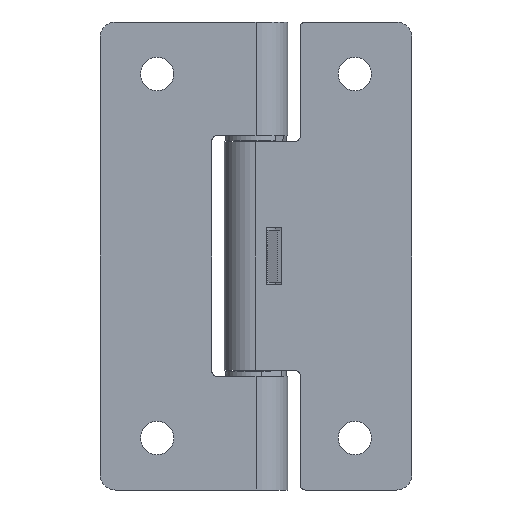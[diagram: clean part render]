
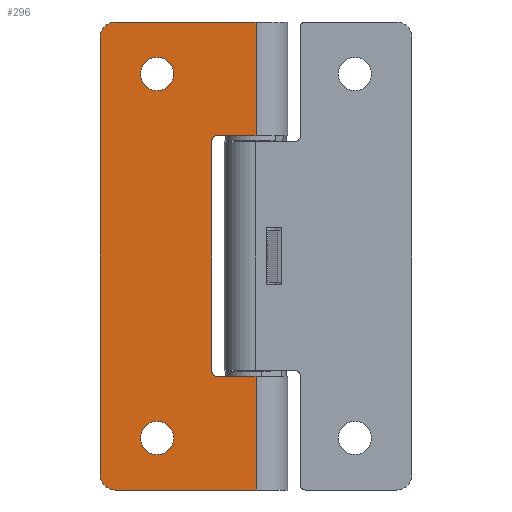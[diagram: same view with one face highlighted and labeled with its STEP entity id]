
A CAD part, front view. The second image highlights one B-rep face of the part: STEP entity #296.
In plain terms, the highlighted planar face has unit normal (0, -1, 0).
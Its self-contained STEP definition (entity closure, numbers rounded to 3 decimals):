
#16 = CIRCLE ( 'NONE', #3369, 3.2 ) ;
#29 = DIRECTION ( 'NONE',  ( 0., 0., 1. ) ) ;
#125 = CARTESIAN_POINT ( 'NONE',  ( 0., -6.1, 45. ) ) ;
#130 = CARTESIAN_POINT ( 'NONE',  ( 8.5, -6.1, 23.15 ) ) ;
#142 = ORIENTED_EDGE ( 'NONE', *, *, #1237, .T. ) ;
#154 = LINE ( 'NONE', #130, #2743 ) ;
#159 = VERTEX_POINT ( 'NONE', #1910 ) ;
#166 = DIRECTION ( 'NONE',  ( 0., 0., 1. ) ) ;
#182 = CIRCLE ( 'NONE', #2734, 3.2 ) ;
#184 = CIRCLE ( 'NONE', #3012, 1. ) ;
#185 = EDGE_CURVE ( 'NONE', #321, #2783, #2829, .T. ) ;
#187 = VECTOR ( 'NONE', #902, 1000. ) ;
#204 = VERTEX_POINT ( 'NONE', #1789 ) ;
#223 = DIRECTION ( 'NONE',  ( 0., 1., 0. ) ) ;
#242 = DIRECTION ( 'NONE',  ( 0., 0., -1. ) ) ;
#261 = EDGE_CURVE ( 'NONE', #2697, #1130, #286, .T. ) ;
#286 = CIRCLE ( 'NONE', #1131, 1. ) ;
#296 = ADVANCED_FACE ( 'NONE', ( #1289, #2405, #496 ), #1302, .F. ) ;
#321 = VERTEX_POINT ( 'NONE', #1392 ) ;
#336 = LINE ( 'NONE', #560, #926 ) ;
#338 = CARTESIAN_POINT ( 'NONE',  ( 7.5, -6.1, 23.15 ) ) ;
#358 = CARTESIAN_POINT ( 'NONE',  ( 19., -6.1, 35. ) ) ;
#421 = AXIS2_PLACEMENT_3D ( 'NONE', #511, #3212, #1292 ) ;
#452 = ORIENTED_EDGE ( 'NONE', *, *, #3366, .T. ) ;
#496 = FACE_OUTER_BOUND ( 'NONE', #1307, .T. ) ;
#508 = EDGE_CURVE ( 'NONE', #1041, #204, #182, .T. ) ;
#511 = CARTESIAN_POINT ( 'NONE',  ( 27., -6.1, 42. ) ) ;
#560 = CARTESIAN_POINT ( 'NONE',  ( 8.5, -6.1, -23.15 ) ) ;
#566 = DIRECTION ( 'NONE',  ( 0., 0., 1. ) ) ;
#594 = CARTESIAN_POINT ( 'NONE',  ( 7.5, -6.1, 22.15 ) ) ;
#642 = CARTESIAN_POINT ( 'NONE',  ( 19., -6.1, 38.2 ) ) ;
#668 = EDGE_CURVE ( 'NONE', #2143, #3510, #2676, .T. ) ;
#670 = CARTESIAN_POINT ( 'NONE',  ( 30., -6.1, -42. ) ) ;
#688 = VERTEX_POINT ( 'NONE', #338 ) ;
#717 = DIRECTION ( 'NONE',  ( 1., 0., 0. ) ) ;
#793 = LINE ( 'NONE', #2424, #2393 ) ;
#810 = VECTOR ( 'NONE', #2788, 1000. ) ;
#866 = CIRCLE ( 'NONE', #421, 3. ) ;
#902 = DIRECTION ( 'NONE',  ( 0., 0., -1. ) ) ;
#903 = CARTESIAN_POINT ( 'NONE',  ( 19., -6.1, 31.8 ) ) ;
#926 = VECTOR ( 'NONE', #1673, 1000. ) ;
#961 = EDGE_LOOP ( 'NONE', ( #2573, #1468 ) ) ;
#993 = EDGE_CURVE ( 'NONE', #688, #2420, #184, .T. ) ;
#1032 = CARTESIAN_POINT ( 'NONE',  ( 0., -6.1, 45. ) ) ;
#1041 = VERTEX_POINT ( 'NONE', #1456 ) ;
#1052 = ORIENTED_EDGE ( 'NONE', *, *, #2023, .T. ) ;
#1060 = LINE ( 'NONE', #3295, #1558 ) ;
#1062 = DIRECTION ( 'NONE',  ( 0., 0., 1. ) ) ;
#1094 = EDGE_CURVE ( 'NONE', #2783, #3069, #2572, .T. ) ;
#1116 = DIRECTION ( 'NONE',  ( 0., 0., 1. ) ) ;
#1130 = VERTEX_POINT ( 'NONE', #3078 ) ;
#1131 = AXIS2_PLACEMENT_3D ( 'NONE', #2544, #3411, #1743 ) ;
#1185 = CARTESIAN_POINT ( 'NONE',  ( 0., -6.1, -45. ) ) ;
#1188 = DIRECTION ( 'NONE',  ( 0., 1., 0. ) ) ;
#1198 = VECTOR ( 'NONE', #717, 1000. ) ;
#1237 = EDGE_CURVE ( 'NONE', #204, #1041, #16, .T. ) ;
#1289 = FACE_BOUND ( 'NONE', #2838, .T. ) ;
#1292 = DIRECTION ( 'NONE',  ( 0., 0., 1. ) ) ;
#1302 = PLANE ( 'NONE',  #2434 ) ;
#1307 = EDGE_LOOP ( 'NONE', ( #1052, #3363, #1467, #1898, #3393, #452, #2688, #2708, #3101, #2104, #2506, #2824 ) ) ;
#1312 = EDGE_CURVE ( 'NONE', #159, #321, #2228, .T. ) ;
#1317 = VECTOR ( 'NONE', #2952, 1000. ) ;
#1359 = CARTESIAN_POINT ( 'NONE',  ( 8.5, -6.1, 22.15 ) ) ;
#1362 = DIRECTION ( 'NONE',  ( 0., 1., 0. ) ) ;
#1392 = CARTESIAN_POINT ( 'NONE',  ( 0., -6.1, -45. ) ) ;
#1437 = DIRECTION ( 'NONE',  ( 0., 0., 1. ) ) ;
#1444 = CARTESIAN_POINT ( 'NONE',  ( 0., -6.1, 23.15 ) ) ;
#1456 = CARTESIAN_POINT ( 'NONE',  ( 19., -6.1, -31.8 ) ) ;
#1461 = DIRECTION ( 'NONE',  ( 0., 1., 0. ) ) ;
#1467 = ORIENTED_EDGE ( 'NONE', *, *, #993, .T. ) ;
#1468 = ORIENTED_EDGE ( 'NONE', *, *, #668, .T. ) ;
#1549 = DIRECTION ( 'NONE',  ( 1., 0., 0. ) ) ;
#1558 = VECTOR ( 'NONE', #242, 1000. ) ;
#1620 = LINE ( 'NONE', #1894, #1317 ) ;
#1673 = DIRECTION ( 'NONE',  ( -1., 0., 0. ) ) ;
#1712 = DIRECTION ( 'NONE',  ( 0., 1., 0. ) ) ;
#1743 = DIRECTION ( 'NONE',  ( 0., 0., 1. ) ) ;
#1752 = VERTEX_POINT ( 'NONE', #1444 ) ;
#1769 = AXIS2_PLACEMENT_3D ( 'NONE', #2453, #2242, #29 ) ;
#1789 = CARTESIAN_POINT ( 'NONE',  ( 19., -6.1, -38.2 ) ) ;
#1827 = AXIS2_PLACEMENT_3D ( 'NONE', #3241, #1362, #1062 ) ;
#1894 = CARTESIAN_POINT ( 'NONE',  ( 0., -6.1, 45. ) ) ;
#1898 = ORIENTED_EDGE ( 'NONE', *, *, #2404, .T. ) ;
#1910 = CARTESIAN_POINT ( 'NONE',  ( 0., -6.1, -23.15 ) ) ;
#1913 = EDGE_CURVE ( 'NONE', #1752, #688, #154, .T. ) ;
#1928 = AXIS2_PLACEMENT_3D ( 'NONE', #358, #1188, #2846 ) ;
#1995 = EDGE_CURVE ( 'NONE', #3510, #2143, #3137, .T. ) ;
#2023 = EDGE_CURVE ( 'NONE', #2388, #1752, #1620, .T. ) ;
#2078 = EDGE_CURVE ( 'NONE', #3353, #2290, #866, .T. ) ;
#2088 = CARTESIAN_POINT ( 'NONE',  ( 30., -6.1, 42. ) ) ;
#2092 = EDGE_CURVE ( 'NONE', #2388, #2290, #793, .T. ) ;
#2101 = DIRECTION ( 'NONE',  ( 1., 0., 0. ) ) ;
#2104 = ORIENTED_EDGE ( 'NONE', *, *, #2157, .F. ) ;
#2143 = VERTEX_POINT ( 'NONE', #903 ) ;
#2157 = EDGE_CURVE ( 'NONE', #3353, #3069, #2230, .T. ) ;
#2228 = LINE ( 'NONE', #2987, #187 ) ;
#2230 = LINE ( 'NONE', #2771, #810 ) ;
#2242 = DIRECTION ( 'NONE',  ( 0., -1., 0. ) ) ;
#2290 = VERTEX_POINT ( 'NONE', #2500 ) ;
#2388 = VERTEX_POINT ( 'NONE', #125 ) ;
#2393 = VECTOR ( 'NONE', #2101, 1000. ) ;
#2404 = EDGE_CURVE ( 'NONE', #2420, #2697, #1060, .T. ) ;
#2405 = FACE_BOUND ( 'NONE', #961, .T. ) ;
#2420 = VERTEX_POINT ( 'NONE', #1359 ) ;
#2424 = CARTESIAN_POINT ( 'NONE',  ( 0., -6.1, 45. ) ) ;
#2434 = AXIS2_PLACEMENT_3D ( 'NONE', #1032, #223, #566 ) ;
#2453 = CARTESIAN_POINT ( 'NONE',  ( 27., -6.1, -42. ) ) ;
#2500 = CARTESIAN_POINT ( 'NONE',  ( 27., -6.1, 45. ) ) ;
#2506 = ORIENTED_EDGE ( 'NONE', *, *, #2078, .T. ) ;
#2544 = CARTESIAN_POINT ( 'NONE',  ( 7.5, -6.1, -22.15 ) ) ;
#2572 = CIRCLE ( 'NONE', #1769, 3. ) ;
#2573 = ORIENTED_EDGE ( 'NONE', *, *, #1995, .T. ) ;
#2600 = CARTESIAN_POINT ( 'NONE',  ( 19., -6.1, -35. ) ) ;
#2640 = DIRECTION ( 'NONE',  ( 0., 1., 0. ) ) ;
#2676 = CIRCLE ( 'NONE', #1928, 3.2 ) ;
#2688 = ORIENTED_EDGE ( 'NONE', *, *, #1312, .T. ) ;
#2697 = VERTEX_POINT ( 'NONE', #3395 ) ;
#2708 = ORIENTED_EDGE ( 'NONE', *, *, #185, .T. ) ;
#2734 = AXIS2_PLACEMENT_3D ( 'NONE', #2600, #2640, #166 ) ;
#2743 = VECTOR ( 'NONE', #1549, 1000. ) ;
#2771 = CARTESIAN_POINT ( 'NONE',  ( 30., -6.1, 45. ) ) ;
#2783 = VERTEX_POINT ( 'NONE', #3185 ) ;
#2787 = CARTESIAN_POINT ( 'NONE',  ( 19., -6.1, -35. ) ) ;
#2788 = DIRECTION ( 'NONE',  ( 0., 0., -1. ) ) ;
#2824 = ORIENTED_EDGE ( 'NONE', *, *, #2092, .F. ) ;
#2829 = LINE ( 'NONE', #1185, #1198 ) ;
#2838 = EDGE_LOOP ( 'NONE', ( #3270, #142 ) ) ;
#2846 = DIRECTION ( 'NONE',  ( 0., 0., 1. ) ) ;
#2952 = DIRECTION ( 'NONE',  ( 0., 0., -1. ) ) ;
#2987 = CARTESIAN_POINT ( 'NONE',  ( 0., -6.1, 45. ) ) ;
#3012 = AXIS2_PLACEMENT_3D ( 'NONE', #594, #1712, #1116 ) ;
#3069 = VERTEX_POINT ( 'NONE', #670 ) ;
#3078 = CARTESIAN_POINT ( 'NONE',  ( 7.5, -6.1, -23.15 ) ) ;
#3101 = ORIENTED_EDGE ( 'NONE', *, *, #1094, .T. ) ;
#3137 = CIRCLE ( 'NONE', #1827, 3.2 ) ;
#3185 = CARTESIAN_POINT ( 'NONE',  ( 27., -6.1, -45. ) ) ;
#3212 = DIRECTION ( 'NONE',  ( 0., -1., 0. ) ) ;
#3241 = CARTESIAN_POINT ( 'NONE',  ( 19., -6.1, 35. ) ) ;
#3270 = ORIENTED_EDGE ( 'NONE', *, *, #508, .T. ) ;
#3295 = CARTESIAN_POINT ( 'NONE',  ( 8.5, -6.1, -23.15 ) ) ;
#3353 = VERTEX_POINT ( 'NONE', #2088 ) ;
#3363 = ORIENTED_EDGE ( 'NONE', *, *, #1913, .T. ) ;
#3366 = EDGE_CURVE ( 'NONE', #1130, #159, #336, .T. ) ;
#3369 = AXIS2_PLACEMENT_3D ( 'NONE', #2787, #1461, #1437 ) ;
#3393 = ORIENTED_EDGE ( 'NONE', *, *, #261, .T. ) ;
#3395 = CARTESIAN_POINT ( 'NONE',  ( 8.5, -6.1, -22.15 ) ) ;
#3411 = DIRECTION ( 'NONE',  ( 0., 1., 0. ) ) ;
#3510 = VERTEX_POINT ( 'NONE', #642 ) ;
